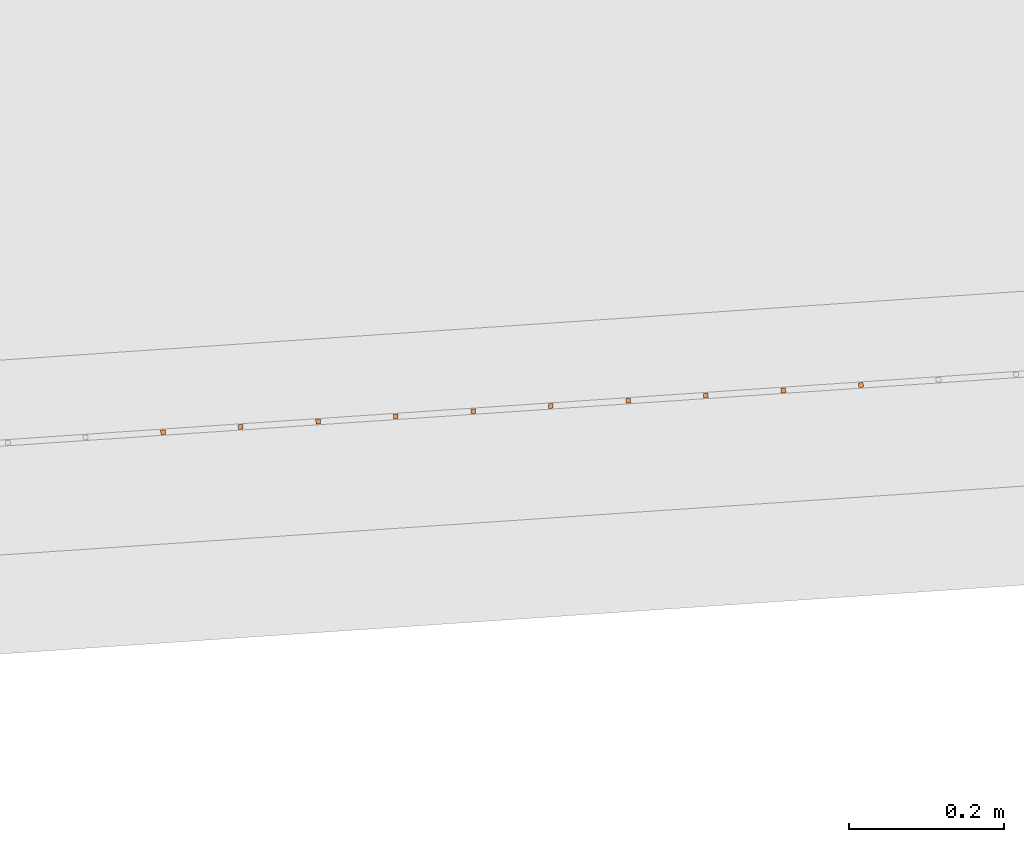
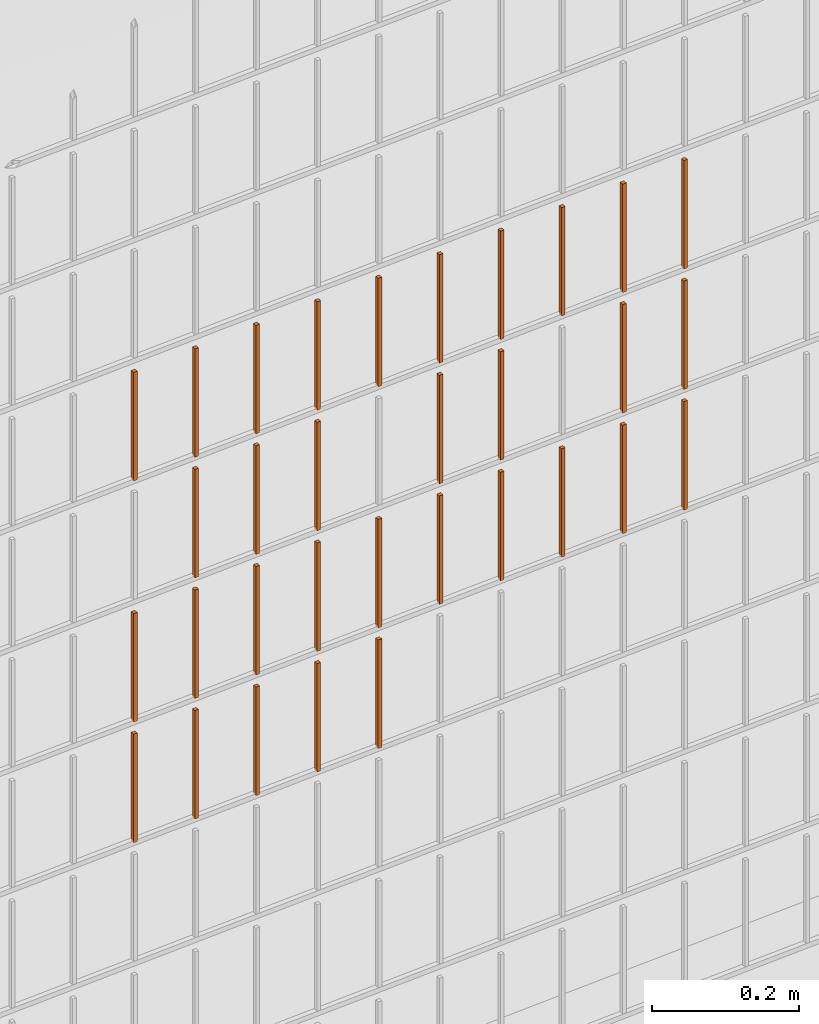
# One storey, part 317 of 1809: 32 proxies, 1 element without a shape of its own.
"""IFC2X3 building model written with IfcOpenShell, lengths in millimetres."""

from ifc_helpers import new_model, entity, si_unit, converted_unit, derived_unit, money_unit, direction, frame, origin_with_axes, place, context, subcontext, project, spatial, faceted_brep, source, transform, mapped, material, type_object, element, aggregate, save


model = new_model("IFC2X3")

# Units and contexts
model_context = context("Model", 3, precision=0.01, world=origin_with_axes(), true_north=direction((0.0, 1.0)))
body_context = subcontext(model_context, "Body", "Model", "MODEL_VIEW")
ifc_project = project(units=[si_unit("LENGTHUNIT", "METRE", prefix="MILLI"), si_unit("AREAUNIT", "SQUARE_METRE"), si_unit("VOLUMEUNIT", "CUBIC_METRE"), converted_unit("PLANEANGLEUNIT", "DEGREE", entity("IfcPlaneAngleMeasure", 0.0174532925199), si_unit("PLANEANGLEUNIT", "RADIAN"), dimensions=[0, 0, 0, 0, 0, 0, 0]), si_unit("SOLIDANGLEUNIT", "STERADIAN"), money_unit("EUR"), converted_unit("TIMEUNIT", "Year", entity("IfcTimeMeasure", 31556926.0), si_unit("TIMEUNIT", "SECOND"), dimensions=[0, 0, 1, 0, 0, 0, 0]), si_unit("MASSUNIT", "GRAM", prefix="KILO"), si_unit("THERMODYNAMICTEMPERATUREUNIT", "DEGREE_CELSIUS"), si_unit("LUMINOUSINTENSITYUNIT", "LUMEN"), si_unit("ENERGYUNIT", "JOULE", prefix="MEGA"), derived_unit("THERMALCONDUCTANCEUNIT", [(si_unit("POWERUNIT", "WATT"), 1), (si_unit("LENGTHUNIT", "METRE"), -1), (si_unit("THERMODYNAMICTEMPERATUREUNIT", "KELVIN"), -1)]), derived_unit("SPECIFICHEATCAPACITYUNIT", [(si_unit("ENERGYUNIT", "JOULE"), 1), (si_unit("MASSUNIT", "GRAM", prefix="KILO"), -1), (si_unit("THERMODYNAMICTEMPERATUREUNIT", "KELVIN"), -1)]), derived_unit("MASSDENSITYUNIT", [(si_unit("MASSUNIT", "GRAM", prefix="KILO"), 1), (si_unit("VOLUMEUNIT", "CUBIC_METRE"), -1)])], contexts=[model_context])

# Site, building, storey
site_placement = place(None, origin_with_axes())
site = spatial("IfcSite", under=ifc_project, at=site_placement, Name="Politse- ja Piirivalveameti ning Päästeameti ühishoone", CompositionType="ELEMENT")
building_placement = place(site_placement, origin_with_axes())
building = spatial("IfcBuilding", under=site, at=building_placement, Name="Politse- ja Piirivalveameti ning Päästeameti ühishoone", CompositionType="ELEMENT")
storey_placement = place(building_placement, origin_with_axes())
storey = spatial("IfcBuildingStorey", under=building, at=storey_placement, Name="Esimene korrus", CompositionType="ELEMENT", Elevation=0.0)

# Proxies
building_element_proxy_type_1 = type_object("IfcBuildingElementProxyType", Name="Railing Type", PredefinedType="NOTDEFINED")
proxy_1_placement = place(storey_placement, frame((89252.001212, -29183.4766571, 203.661247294), z_axis=(0.0, 0.0, 1.0), x_axis=(1.0, 0.0, 0.0)))
proxy_1 = element("IfcBuildingElementProxy", 1, at=proxy_1_placement, inside=storey, type_object=building_element_proxy_type_1, Name="PIIRDEAED")
ifc_material = material(Name="ET-03_Raud")
building_element_proxy_type_2 = type_object("IfcBuildingElementProxyType", Name="IfcBuildingElementProxy", PredefinedType="NOTDEFINED")
shared_shape_1 = source(origin_with_axes(), body_context, "Body", "Brep", [
    faceted_brep([(3.0, 3.0, -0.000752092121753), (-3.0, 3.0, -0.000752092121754), (-3.0, 3.0, 179.99926046), (3.0, 3.0, 179.99926046), (3.0, -3.0, 0.000752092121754), (-3.0, -3.0, 0.000752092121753), (-3.0, -3.0, 180.000764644), (3.0, -3.0, 180.000764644)], [[[0, 1, 2, 3]], [[0, 4, 5, 1]], [[1, 5, 6, 2]], [[3, 2, 6, 7]], [[4, 0, 3, 7]], [[5, 4, 7, 6]]]),
])
proxy_2_placement = place(proxy_1_placement, frame((-38439.0987092, -19894.1908155, 817.57584601), z_axis=(0.0, 0.0, 1.0), x_axis=(1.0, 0.0, 0.0)))
proxy_2 = element("IfcBuildingElementProxy", 2, at=proxy_2_placement, type_object=building_element_proxy_type_2, material=ifc_material, Name="BALUSTER - 001", context=body_context, shape_type="MappedRepresentation", body=[
    mapped(shared_shape_1, transform((0.0, 0.0, 0.0), x_axis=(-0.0673926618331, 0.997726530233, 0.0), y_axis=(-0.997726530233, -0.0673926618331, 0.0), z_axis=(0.0, 0.0, 1.0))),
])
shared_shape_2 = source(origin_with_axes(), body_context, "Body", "Brep", [
    faceted_brep([(3.0, 3.0, -0.000752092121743), (-3.0, 3.0, -0.000752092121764), (-3.0, 3.0, 179.99926046), (3.0, 3.0, 179.99926046), (3.0, -3.0, 0.000752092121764), (-3.0, -3.0, 0.000752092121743), (-3.0, -3.0, 180.000764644), (3.0, -3.0, 180.000764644)], [[[0, 1, 2, 3]], [[0, 4, 5, 1]], [[1, 5, 6, 2]], [[3, 2, 6, 7]], [[4, 0, 3, 7]], [[5, 4, 7, 6]]]),
])
proxy_3_placement = place(proxy_1_placement, frame((-38538.8713622, -19900.9300817, 817.550776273), z_axis=(0.0, 0.0, 1.0), x_axis=(1.0, 0.0, 0.0)))
proxy_3 = element("IfcBuildingElementProxy", 3, at=proxy_3_placement, type_object=building_element_proxy_type_2, material=ifc_material, Name="BALUSTER - 001", context=body_context, shape_type="MappedRepresentation", body=[
    mapped(shared_shape_2, transform((0.0, 0.0, 0.0), x_axis=(-0.0673926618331, 0.997726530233, 0.0), y_axis=(-0.997726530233, -0.0673926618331, 0.0), z_axis=(0.0, 0.0, 1.0))),
])
proxy_4_placement = place(proxy_1_placement, frame((-38538.8713622, -19900.9300817, 1217.55077627), z_axis=(0.0, 0.0, 1.0), x_axis=(1.0, 0.0, 0.0)))
proxy_4 = element("IfcBuildingElementProxy", 4, at=proxy_4_placement, type_object=building_element_proxy_type_2, material=ifc_material, Name="BALUSTER - 001", context=body_context, shape_type="MappedRepresentation", body=[
    mapped(shared_shape_2, transform((0.0, 0.0, 0.0), x_axis=(-0.0673926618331, 0.997726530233, 0.0), y_axis=(-0.997726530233, -0.0673926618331, 0.0), z_axis=(0.0, 0.0, 1.0))),
])
shared_shape_3 = source(origin_with_axes(), body_context, "Body", "Brep", [
    faceted_brep([(3.0, 3.0, -0.000752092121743), (-3.0, 3.0, -0.000752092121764), (-3.0, 3.0, 179.99926046), (3.0, 3.0, 179.99926046), (3.0, -3.0, 0.000752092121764), (-3.0, -3.0, 0.000752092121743), (-3.0, -3.0, 180.000764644), (3.0, -3.0, 180.000764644)], [[[0, 1, 2, 3]], [[0, 4, 5, 1]], [[1, 5, 6, 2]], [[3, 2, 6, 7]], [[4, 0, 3, 7]], [[5, 4, 7, 6]]]),
])
proxy_5_placement = place(proxy_1_placement, frame((-38339.3260561, -19887.4515493, 817.600915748), z_axis=(0.0, 0.0, 1.0), x_axis=(1.0, 0.0, 0.0)))
proxy_5 = element("IfcBuildingElementProxy", 5, at=proxy_5_placement, type_object=building_element_proxy_type_2, material=ifc_material, Name="BALUSTER - 001", context=body_context, shape_type="MappedRepresentation", body=[
    mapped(shared_shape_3, transform((0.0, 0.0, 0.0), x_axis=(-0.0673926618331, 0.997726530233, 0.0), y_axis=(-0.997726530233, -0.0673926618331, 0.0), z_axis=(0.0, 0.0, 1.0))),
])
proxy_6_placement = place(proxy_1_placement, frame((-38439.0987092, -19894.1908155, 1217.57584601), z_axis=(0.0, 0.0, 1.0), x_axis=(1.0, 0.0, 0.0)))
proxy_6 = element("IfcBuildingElementProxy", 6, at=proxy_6_placement, type_object=building_element_proxy_type_2, material=ifc_material, Name="BALUSTER - 001", context=body_context, shape_type="MappedRepresentation", body=[
    mapped(shared_shape_3, transform((0.0, 0.0, 0.0), x_axis=(-0.0673926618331, 0.997726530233, 0.0), y_axis=(-0.997726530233, -0.0673926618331, 0.0), z_axis=(0.0, 0.0, 1.0))),
])
shared_shape_4 = source(origin_with_axes(), body_context, "Body", "Brep", [
    faceted_brep([(3.0, 3.0, -0.000752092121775), (-3.0, 3.0, -0.000752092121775), (-3.0, 3.0, 179.99926046), (3.0, 3.0, 179.99926046), (3.0, -3.0, 0.000752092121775), (-3.0, -3.0, 0.000752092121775), (-3.0, -3.0, 180.000764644), (3.0, -3.0, 180.000764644)], [[[0, 1, 2, 3]], [[0, 4, 5, 1]], [[1, 5, 6, 2]], [[3, 2, 6, 7]], [[4, 0, 3, 7]], [[5, 4, 7, 6]]]),
])
proxy_7_placement = place(proxy_1_placement, frame((-38838.1893213, -19921.1478802, 617.475567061), z_axis=(0.0, 0.0, 1.0), x_axis=(1.0, 0.0, 0.0)))
proxy_7 = element("IfcBuildingElementProxy", 7, at=proxy_7_placement, type_object=building_element_proxy_type_2, material=ifc_material, Name="BALUSTER - 001", context=body_context, shape_type="MappedRepresentation", body=[
    mapped(shared_shape_4, transform((0.0, 0.0, 0.0), x_axis=(-0.0673926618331, 0.997726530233, 0.0), y_axis=(-0.997726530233, -0.0673926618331, 0.0), z_axis=(0.0, 0.0, 1.0))),
])
shared_shape_5 = source(origin_with_axes(), body_context, "Body", "Brep", [
    faceted_brep([(3.0, 3.0, -0.000752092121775), (-3.0, 3.0, -0.000752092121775), (-3.0, 3.0, 179.99926046), (3.0, 3.0, 179.99926046), (3.0, -3.0, 0.000752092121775), (-3.0, -3.0, 0.000752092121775), (-3.0, -3.0, 180.000764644), (3.0, -3.0, 180.000764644)], [[[0, 1, 2, 3]], [[0, 4, 5, 1]], [[1, 5, 6, 2]], [[3, 2, 6, 7]], [[4, 0, 3, 7]], [[5, 4, 7, 6]]]),
])
proxy_8_placement = place(proxy_1_placement, frame((-38838.1893213, -19921.1478802, 817.475567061), z_axis=(0.0, 0.0, 1.0), x_axis=(1.0, 0.0, 0.0)))
proxy_8 = element("IfcBuildingElementProxy", 8, at=proxy_8_placement, type_object=building_element_proxy_type_2, material=ifc_material, Name="BALUSTER - 001", context=body_context, shape_type="MappedRepresentation", body=[
    mapped(shared_shape_5, transform((0.0, 0.0, 0.0), x_axis=(-0.0673926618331, 0.997726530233, 0.0), y_axis=(-0.997726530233, -0.0673926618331, 0.0), z_axis=(0.0, 0.0, 1.0))),
])
proxy_9_placement = place(proxy_1_placement, frame((-38838.1893213, -19921.1478802, 1217.47556706), z_axis=(0.0, 0.0, 1.0), x_axis=(1.0, 0.0, 0.0)))
proxy_9 = element("IfcBuildingElementProxy", 9, at=proxy_9_placement, type_object=building_element_proxy_type_2, material=ifc_material, Name="BALUSTER - 001", context=body_context, shape_type="MappedRepresentation", body=[
    mapped(shared_shape_5, transform((0.0, 0.0, 0.0), x_axis=(-0.0673926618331, 0.997726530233, 0.0), y_axis=(-0.997726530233, -0.0673926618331, 0.0), z_axis=(0.0, 0.0, 1.0))),
])
shared_shape_6 = source(origin_with_axes(), body_context, "Body", "Brep", [
    faceted_brep([(3.0, 3.0, -0.000752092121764), (-3.0, 3.0, -0.000752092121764), (-3.0, 3.0, 179.99926046), (3.0, 3.0, 179.99926046), (3.0, -3.0, 0.000752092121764), (-3.0, -3.0, 0.000752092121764), (-3.0, -3.0, 180.000764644), (3.0, -3.0, 180.000764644)], [[[0, 1, 2, 3]], [[0, 4, 5, 1]], [[1, 5, 6, 2]], [[3, 2, 6, 7]], [[4, 0, 3, 7]], [[5, 4, 7, 6]]]),
])
proxy_10_placement = place(proxy_1_placement, frame((-38937.9619743, -19927.8871464, 1217.45049732), z_axis=(0.0, 0.0, 1.0), x_axis=(1.0, 0.0, 0.0)))
proxy_10 = element("IfcBuildingElementProxy", 10, at=proxy_10_placement, type_object=building_element_proxy_type_2, material=ifc_material, Name="BALUSTER - 001", context=body_context, shape_type="MappedRepresentation", body=[
    mapped(shared_shape_6, transform((0.0, 0.0, 0.0), x_axis=(-0.0673926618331, 0.997726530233, 0.0), y_axis=(-0.997726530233, -0.0673926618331, 0.0), z_axis=(0.0, 0.0, 1.0))),
])
shared_shape_7 = source(origin_with_axes(), body_context, "Body", "Brep", [
    faceted_brep([(3.0, 3.0, -0.000752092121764), (-3.0, 3.0, -0.000752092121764), (-3.0, 3.0, 179.99926046), (3.0, 3.0, 179.99926046), (3.0, -3.0, 0.000752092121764), (-3.0, -3.0, 0.000752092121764), (-3.0, -3.0, 180.000764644), (3.0, -3.0, 180.000764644)], [[[0, 1, 2, 3]], [[0, 4, 5, 1]], [[1, 5, 6, 2]], [[3, 2, 6, 7]], [[4, 0, 3, 7]], [[5, 4, 7, 6]]]),
])
proxy_11_placement = place(proxy_1_placement, frame((-38339.3260561, -19887.4515493, 1217.60091575), z_axis=(0.0, 0.0, 1.0), x_axis=(1.0, 0.0, 0.0)))
proxy_11 = element("IfcBuildingElementProxy", 11, at=proxy_11_placement, type_object=building_element_proxy_type_2, material=ifc_material, Name="BALUSTER - 001", context=body_context, shape_type="MappedRepresentation", body=[
    mapped(shared_shape_7, transform((0.0, 0.0, 0.0), x_axis=(-0.0673926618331, 0.997726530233, 0.0), y_axis=(-0.997726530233, -0.0673926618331, 0.0), z_axis=(0.0, 0.0, 1.0))),
])
shared_shape_8 = source(origin_with_axes(), body_context, "Body", "Brep", [
    faceted_brep([(3.0, 3.0, -0.000752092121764), (-3.0, 3.0, -0.000752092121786), (-3.0, 3.0, 179.99926046), (3.0, 3.0, 179.99926046), (3.0, -3.0, 0.000752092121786), (-3.0, -3.0, 0.000752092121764), (-3.0, -3.0, 180.000764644), (3.0, -3.0, 180.000764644)], [[[0, 1, 2, 3]], [[0, 4, 5, 1]], [[1, 5, 6, 2]], [[3, 2, 6, 7]], [[4, 0, 3, 7]], [[5, 4, 7, 6]]]),
])
proxy_12_placement = place(proxy_1_placement, frame((-39037.7346273, -19934.6264126, 617.425427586), z_axis=(0.0, 0.0, 1.0), x_axis=(1.0, 0.0, 0.0)))
proxy_12 = element("IfcBuildingElementProxy", 12, at=proxy_12_placement, type_object=building_element_proxy_type_2, material=ifc_material, Name="BALUSTER - 001", context=body_context, shape_type="MappedRepresentation", body=[
    mapped(shared_shape_8, transform((0.0, 0.0, 0.0), x_axis=(-0.0673926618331, 0.997726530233, 0.0), y_axis=(-0.997726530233, -0.0673926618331, 0.0), z_axis=(0.0, 0.0, 1.0))),
])
shared_shape_9 = source(origin_with_axes(), body_context, "Body", "Brep", [
    faceted_brep([(3.0, 3.0, -0.000752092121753), (-3.0, 3.0, -0.000752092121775), (-3.0, 3.0, 179.99926046), (3.0, 3.0, 179.99926046), (3.0, -3.0, 0.000752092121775), (-3.0, -3.0, 0.000752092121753), (-3.0, -3.0, 180.000764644), (3.0, -3.0, 180.000764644)], [[[0, 1, 2, 3]], [[0, 4, 5, 1]], [[1, 5, 6, 2]], [[3, 2, 6, 7]], [[4, 0, 3, 7]], [[5, 4, 7, 6]]]),
])
proxy_13_placement = place(proxy_1_placement, frame((-39137.5072803, -19941.3656788, 817.400357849), z_axis=(0.0, 0.0, 1.0), x_axis=(1.0, 0.0, 0.0)))
proxy_13 = element("IfcBuildingElementProxy", 13, at=proxy_13_placement, type_object=building_element_proxy_type_2, material=ifc_material, Name="BALUSTER - 001", context=body_context, shape_type="MappedRepresentation", body=[
    mapped(shared_shape_9, transform((0.0, 0.0, 0.0), x_axis=(-0.0673926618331, 0.997726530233, 0.0), y_axis=(-0.997726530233, -0.0673926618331, 0.0), z_axis=(0.0, 0.0, 1.0))),
])
shared_shape_10 = source(origin_with_axes(), body_context, "Body", "Brep", [
    faceted_brep([(3.0, 3.0, -0.000752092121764), (-3.0, 3.0, -0.000752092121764), (-3.0, 3.0, 179.99926046), (3.0, 3.0, 179.99926046), (3.0, -3.0, 0.000752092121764), (-3.0, -3.0, 0.000752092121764), (-3.0, -3.0, 180.000764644), (3.0, -3.0, 180.000764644)], [[[0, 1, 2, 3]], [[0, 4, 5, 1]], [[1, 5, 6, 2]], [[3, 2, 6, 7]], [[4, 0, 3, 7]], [[5, 4, 7, 6]]]),
])
proxy_14_placement = place(proxy_1_placement, frame((-38239.5534031, -19880.7122831, 817.625985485), z_axis=(0.0, 0.0, 1.0), x_axis=(1.0, 0.0, 0.0)))
proxy_14 = element("IfcBuildingElementProxy", 14, at=proxy_14_placement, type_object=building_element_proxy_type_2, material=ifc_material, Name="BALUSTER - 001", context=body_context, shape_type="MappedRepresentation", body=[
    mapped(shared_shape_10, transform((0.0, 0.0, 0.0), x_axis=(-0.0673926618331, 0.997726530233, 0.0), y_axis=(-0.997726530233, -0.0673926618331, 0.0), z_axis=(0.0, 0.0, 1.0))),
])
shared_shape_11 = source(origin_with_axes(), body_context, "Body", "Brep", [
    faceted_brep([(3.0, 3.0, -0.000752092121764), (-3.0, 3.0, -0.000752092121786), (-3.0, 3.0, 179.99926046), (3.0, 3.0, 179.99926046), (3.0, -3.0, 0.000752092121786), (-3.0, -3.0, 0.000752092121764), (-3.0, -3.0, 180.000764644), (3.0, -3.0, 180.000764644)], [[[0, 1, 2, 3]], [[0, 4, 5, 1]], [[1, 5, 6, 2]], [[3, 2, 6, 7]], [[4, 0, 3, 7]], [[5, 4, 7, 6]]]),
])
proxy_15_placement = place(proxy_1_placement, frame((-38937.9619743, -19927.8871464, 817.450497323), z_axis=(0.0, 0.0, 1.0), x_axis=(1.0, 0.0, 0.0)))
proxy_15 = element("IfcBuildingElementProxy", 15, at=proxy_15_placement, type_object=building_element_proxy_type_2, material=ifc_material, Name="BALUSTER - 001", context=body_context, shape_type="MappedRepresentation", body=[
    mapped(shared_shape_11, transform((0.0, 0.0, 0.0), x_axis=(-0.0673926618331, 0.997726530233, 0.0), y_axis=(-0.997726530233, -0.0673926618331, 0.0), z_axis=(0.0, 0.0, 1.0))),
])
shared_shape_12 = source(origin_with_axes(), body_context, "Body", "Brep", [
    faceted_brep([(3.0, 3.0, -0.000752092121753), (-3.0, 3.0, -0.000752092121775), (-3.0, 3.0, 179.99926046), (3.0, 3.0, 179.99926046), (3.0, -3.0, 0.000752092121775), (-3.0, -3.0, 0.000752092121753), (-3.0, -3.0, 180.000764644), (3.0, -3.0, 180.000764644)], [[[0, 1, 2, 3]], [[0, 4, 5, 1]], [[1, 5, 6, 2]], [[3, 2, 6, 7]], [[4, 0, 3, 7]], [[5, 4, 7, 6]]]),
])
proxy_16_placement = place(proxy_1_placement, frame((-39137.5072803, -19941.3656788, 617.400357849), z_axis=(0.0, 0.0, 1.0), x_axis=(1.0, 0.0, 0.0)))
proxy_16 = element("IfcBuildingElementProxy", 16, at=proxy_16_placement, type_object=building_element_proxy_type_2, material=ifc_material, Name="BALUSTER - 001", context=body_context, shape_type="MappedRepresentation", body=[
    mapped(shared_shape_12, transform((0.0, 0.0, 0.0), x_axis=(-0.0673926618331, 0.997726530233, 0.0), y_axis=(-0.997726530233, -0.0673926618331, 0.0), z_axis=(0.0, 0.0, 1.0))),
])
shared_shape_13 = source(origin_with_axes(), body_context, "Body", "Brep", [
    faceted_brep([(3.0, 3.0, -0.000752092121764), (-3.0, 3.0, -0.000752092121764), (-3.0, 3.0, 179.99926046), (3.0, 3.0, 179.99926046), (3.0, -3.0, 0.000752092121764), (-3.0, -3.0, 0.000752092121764), (-3.0, -3.0, 180.000764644), (3.0, -3.0, 180.000764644)], [[[0, 1, 2, 3]], [[0, 4, 5, 1]], [[1, 5, 6, 2]], [[3, 2, 6, 7]], [[4, 0, 3, 7]], [[5, 4, 7, 6]]]),
])
proxy_17_placement = place(proxy_1_placement, frame((-38638.6440152, -19907.6693479, 817.525706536), z_axis=(0.0, 0.0, 1.0), x_axis=(1.0, 0.0, 0.0)))
proxy_17 = element("IfcBuildingElementProxy", 17, at=proxy_17_placement, type_object=building_element_proxy_type_2, material=ifc_material, Name="BALUSTER - 001", context=body_context, shape_type="MappedRepresentation", body=[
    mapped(shared_shape_13, transform((0.0, 0.0, 0.0), x_axis=(-0.0673926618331, 0.997726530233, 0.0), y_axis=(-0.997726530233, -0.0673926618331, 0.0), z_axis=(0.0, 0.0, 1.0))),
])
proxy_18_placement = place(proxy_1_placement, frame((-38638.6440152, -19907.6693479, 1217.52570654), z_axis=(0.0, 0.0, 1.0), x_axis=(1.0, 0.0, 0.0)))
proxy_18 = element("IfcBuildingElementProxy", 18, at=proxy_18_placement, type_object=building_element_proxy_type_2, material=ifc_material, Name="BALUSTER - 001", context=body_context, shape_type="MappedRepresentation", body=[
    mapped(shared_shape_13, transform((0.0, 0.0, 0.0), x_axis=(-0.0673926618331, 0.997726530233, 0.0), y_axis=(-0.997726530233, -0.0673926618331, 0.0), z_axis=(0.0, 0.0, 1.0))),
])
shared_shape_14 = source(origin_with_axes(), body_context, "Body", "Brep", [
    faceted_brep([(3.0, 3.0, -0.000752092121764), (-3.0, 3.0, -0.000752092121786), (-3.0, 3.0, 179.99926046), (3.0, 3.0, 179.99926046), (3.0, -3.0, 0.000752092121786), (-3.0, -3.0, 0.000752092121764), (-3.0, -3.0, 180.000764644), (3.0, -3.0, 180.000764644)], [[[0, 1, 2, 3]], [[0, 4, 5, 1]], [[1, 5, 6, 2]], [[3, 2, 6, 7]], [[4, 0, 3, 7]], [[5, 4, 7, 6]]]),
])
proxy_19_placement = place(proxy_1_placement, frame((-38937.9619743, -19927.8871464, 617.450497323), z_axis=(0.0, 0.0, 1.0), x_axis=(1.0, 0.0, 0.0)))
proxy_19 = element("IfcBuildingElementProxy", 19, at=proxy_19_placement, type_object=building_element_proxy_type_2, material=ifc_material, Name="BALUSTER - 001", context=body_context, shape_type="MappedRepresentation", body=[
    mapped(shared_shape_14, transform((0.0, 0.0, 0.0), x_axis=(-0.0673926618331, 0.997726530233, 0.0), y_axis=(-0.997726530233, -0.0673926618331, 0.0), z_axis=(0.0, 0.0, 1.0))),
])
shared_shape_15 = source(origin_with_axes(), body_context, "Body", "Brep", [
    faceted_brep([(3.0, 3.0, -0.000752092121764), (-3.0, 3.0, -0.000752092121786), (-3.0, 3.0, 179.99926046), (3.0, 3.0, 179.99926046), (3.0, -3.0, 0.000752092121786), (-3.0, -3.0, 0.000752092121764), (-3.0, -3.0, 180.000764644), (3.0, -3.0, 180.000764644)], [[[0, 1, 2, 3]], [[0, 4, 5, 1]], [[1, 5, 6, 2]], [[3, 2, 6, 7]], [[4, 0, 3, 7]], [[5, 4, 7, 6]]]),
])
proxy_20_placement = place(proxy_1_placement, frame((-39037.7346273, -19934.6264126, 817.425427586), z_axis=(0.0, 0.0, 1.0), x_axis=(1.0, 0.0, 0.0)))
proxy_20 = element("IfcBuildingElementProxy", 20, at=proxy_20_placement, type_object=building_element_proxy_type_2, material=ifc_material, Name="BALUSTER - 001", context=body_context, shape_type="MappedRepresentation", body=[
    mapped(shared_shape_15, transform((0.0, 0.0, 0.0), x_axis=(-0.0673926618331, 0.997726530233, 0.0), y_axis=(-0.997726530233, -0.0673926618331, 0.0), z_axis=(0.0, 0.0, 1.0))),
])
shared_shape_16 = source(origin_with_axes(), body_context, "Body", "Brep", [
    faceted_brep([(3.0, 3.0, -0.000752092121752), (-3.0, 3.0, -0.000752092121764), (-3.00000000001, 2.99999999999, 179.99926046), (2.99999999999, 2.99999999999, 179.99926046), (3.0, -3.0, 0.000752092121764), (-3.0, -3.0, 0.000752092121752), (-3.00000000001, -3.00000000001, 180.000764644), (2.99999999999, -3.00000000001, 180.000764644)], [[[0, 1, 2, 3]], [[0, 4, 5, 1]], [[1, 5, 6, 2]], [[3, 2, 6, 7]], [[4, 0, 3, 7]], [[5, 4, 7, 6]]]),
])
proxy_21_placement = place(proxy_1_placement, frame((-38838.1893213, -19921.1478802, 1017.47556706), z_axis=(0.0, 0.0, 1.0), x_axis=(1.0, 0.0, 0.0)))
proxy_21 = element("IfcBuildingElementProxy", 21, at=proxy_21_placement, type_object=building_element_proxy_type_2, material=ifc_material, Name="BALUSTER - 001", context=body_context, shape_type="MappedRepresentation", body=[
    mapped(shared_shape_16, transform((0.0, 0.0, 0.0), x_axis=(-0.0673926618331, 0.997726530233, 0.0), y_axis=(-0.997726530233, -0.0673926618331, 0.0), z_axis=(0.0, 0.0, 1.0))),
])
shared_shape_17 = source(origin_with_axes(), body_context, "Body", "Brep", [
    faceted_brep([(3.0, 3.0, -0.000752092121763), (-3.0, 3.0, -0.000752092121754), (-3.00000000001, 2.99999999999, 179.99926046), (2.99999999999, 2.99999999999, 179.99926046), (3.0, -3.0, 0.000752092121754), (-3.0, -3.0, 0.000752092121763), (-3.00000000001, -3.00000000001, 180.000764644), (2.99999999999, -3.00000000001, 180.000764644)], [[[0, 1, 2, 3]], [[0, 4, 5, 1]], [[1, 5, 6, 2]], [[3, 2, 6, 7]], [[4, 0, 3, 7]], [[5, 4, 7, 6]]]),
])
proxy_22_placement = place(proxy_1_placement, frame((-39037.7346273, -19934.6264126, 1017.42542759), z_axis=(0.0, 0.0, 1.0), x_axis=(1.0, 0.0, 0.0)))
proxy_22 = element("IfcBuildingElementProxy", 22, at=proxy_22_placement, type_object=building_element_proxy_type_2, material=ifc_material, Name="BALUSTER - 001", context=body_context, shape_type="MappedRepresentation", body=[
    mapped(shared_shape_17, transform((0.0, 0.0, 0.0), x_axis=(-0.0673926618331, 0.997726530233, 0.0), y_axis=(-0.997726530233, -0.0673926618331, 0.0), z_axis=(0.0, 0.0, 1.0))),
])
shared_shape_18 = source(origin_with_axes(), body_context, "Body", "Brep", [
    faceted_brep([(3.0, 3.0, -0.000752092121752), (-3.0, 3.0, -0.000752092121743), (-3.00000000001, 2.99999999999, 179.99926046), (2.99999999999, 2.99999999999, 179.99926046), (3.0, -3.0, 0.000752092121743), (-3.0, -3.0, 0.000752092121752), (-3.00000000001, -3.00000000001, 180.000764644), (2.99999999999, -3.00000000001, 180.000764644)], [[[0, 1, 2, 3]], [[0, 4, 5, 1]], [[1, 5, 6, 2]], [[3, 2, 6, 7]], [[4, 0, 3, 7]], [[5, 4, 7, 6]]]),
])
proxy_23_placement = place(proxy_1_placement, frame((-38538.8713622, -19900.9300817, 1017.55077627), z_axis=(0.0, 0.0, 1.0), x_axis=(1.0, 0.0, 0.0)))
proxy_23 = element("IfcBuildingElementProxy", 23, at=proxy_23_placement, type_object=building_element_proxy_type_2, material=ifc_material, Name="BALUSTER - 001", context=body_context, shape_type="MappedRepresentation", body=[
    mapped(shared_shape_18, transform((0.0, 0.0, 0.0), x_axis=(-0.0673926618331, 0.997726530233, 0.0), y_axis=(-0.997726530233, -0.0673926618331, 0.0), z_axis=(0.0, 0.0, 1.0))),
])
shared_shape_19 = source(origin_with_axes(), body_context, "Body", "Brep", [
    faceted_brep([(3.0, 3.0, -0.000752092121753), (-3.0, 3.0, -0.000752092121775), (-3.0, 3.0, 179.99926046), (3.0, 3.0, 179.99926046), (3.0, -3.0, 0.000752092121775), (-3.0, -3.0, 0.000752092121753), (-3.0, -3.0, 180.000764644), (3.0, -3.0, 180.000764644)], [[[0, 1, 2, 3]], [[0, 4, 5, 1]], [[1, 5, 6, 2]], [[3, 2, 6, 7]], [[4, 0, 3, 7]], [[5, 4, 7, 6]]]),
])
proxy_24_placement = place(proxy_1_placement, frame((-39137.5072803, -19941.3656788, 1217.40035785), z_axis=(0.0, 0.0, 1.0), x_axis=(1.0, 0.0, 0.0)))
proxy_24 = element("IfcBuildingElementProxy", 24, at=proxy_24_placement, type_object=building_element_proxy_type_2, material=ifc_material, Name="BALUSTER - 001", context=body_context, shape_type="MappedRepresentation", body=[
    mapped(shared_shape_19, transform((0.0, 0.0, 0.0), x_axis=(-0.0673926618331, 0.997726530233, 0.0), y_axis=(-0.997726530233, -0.0673926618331, 0.0), z_axis=(0.0, 0.0, 1.0))),
])
shared_shape_20 = source(origin_with_axes(), body_context, "Body", "Brep", [
    faceted_brep([(3.0, 3.0, -0.000752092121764), (-3.0, 3.0, -0.000752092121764), (-3.0, 3.0, 179.99926046), (3.0, 3.0, 179.99926046), (3.0, -3.0, 0.000752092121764), (-3.0, -3.0, 0.000752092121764), (-3.0, -3.0, 180.000764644), (3.0, -3.0, 180.000764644)], [[[0, 1, 2, 3]], [[0, 4, 5, 1]], [[1, 5, 6, 2]], [[3, 2, 6, 7]], [[4, 0, 3, 7]], [[5, 4, 7, 6]]]),
])
proxy_25_placement = place(proxy_1_placement, frame((-38738.4166682, -19914.408614, 1217.5006368), z_axis=(0.0, 0.0, 1.0), x_axis=(1.0, 0.0, 0.0)))
proxy_25 = element("IfcBuildingElementProxy", 25, at=proxy_25_placement, type_object=building_element_proxy_type_2, material=ifc_material, Name="BALUSTER - 001", context=body_context, shape_type="MappedRepresentation", body=[
    mapped(shared_shape_20, transform((0.0, 0.0, 0.0), x_axis=(-0.0673926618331, 0.997726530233, 0.0), y_axis=(-0.997726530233, -0.0673926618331, 0.0), z_axis=(0.0, 0.0, 1.0))),
])
shared_shape_21 = source(origin_with_axes(), body_context, "Body", "Brep", [
    faceted_brep([(3.0, 3.0, -0.000752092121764), (-3.0, 3.0, -0.000752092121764), (-3.0, 3.0, 179.99926046), (3.0, 3.0, 179.99926046), (3.0, -3.0, 0.000752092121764), (-3.0, -3.0, 0.000752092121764), (-3.0, -3.0, 180.000764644), (3.0, -3.0, 180.000764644)], [[[0, 1, 2, 3]], [[0, 4, 5, 1]], [[1, 5, 6, 2]], [[3, 2, 6, 7]], [[4, 0, 3, 7]], [[5, 4, 7, 6]]]),
])
proxy_26_placement = place(proxy_1_placement, frame((-38239.5534031, -19880.7122831, 1217.62598549), z_axis=(0.0, 0.0, 1.0), x_axis=(1.0, 0.0, 0.0)))
proxy_26 = element("IfcBuildingElementProxy", 26, at=proxy_26_placement, type_object=building_element_proxy_type_2, material=ifc_material, Name="BALUSTER - 001", context=body_context, shape_type="MappedRepresentation", body=[
    mapped(shared_shape_21, transform((0.0, 0.0, 0.0), x_axis=(-0.0673926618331, 0.997726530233, 0.0), y_axis=(-0.997726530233, -0.0673926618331, 0.0), z_axis=(0.0, 0.0, 1.0))),
])
shared_shape_22 = source(origin_with_axes(), body_context, "Body", "Brep", [
    faceted_brep([(3.0, 3.0, -0.000752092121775), (-3.0, 3.0, -0.000752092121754), (-3.0, 3.0, 179.99926046), (3.0, 3.0, 179.99926046), (3.0, -3.0, 0.000752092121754), (-3.0, -3.0, 0.000752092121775), (-3.0, -3.0, 180.000764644), (3.0, -3.0, 180.000764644)], [[[0, 1, 2, 3]], [[0, 4, 5, 1]], [[1, 5, 6, 2]], [[3, 2, 6, 7]], [[4, 0, 3, 7]], [[5, 4, 7, 6]]]),
])
proxy_27_placement = place(proxy_1_placement, frame((-38738.4166682, -19914.408614, 817.500636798), z_axis=(0.0, 0.0, 1.0), x_axis=(1.0, 0.0, 0.0)))
proxy_27 = element("IfcBuildingElementProxy", 27, at=proxy_27_placement, type_object=building_element_proxy_type_2, material=ifc_material, Name="BALUSTER - 001", context=body_context, shape_type="MappedRepresentation", body=[
    mapped(shared_shape_22, transform((0.0, 0.0, 0.0), x_axis=(-0.0673926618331, 0.997726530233, 0.0), y_axis=(-0.997726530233, -0.0673926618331, 0.0), z_axis=(0.0, 0.0, 1.0))),
])
shared_shape_23 = source(origin_with_axes(), body_context, "Body", "Brep", [
    faceted_brep([(3.0, 3.0, -0.000752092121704), (-3.0, 3.0, -0.000752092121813), (-3.00000000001, 2.99999999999, 179.99926046), (2.99999999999, 2.99999999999, 179.99926046), (3.0, -3.0, 0.000752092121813), (-3.0, -3.0, 0.000752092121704), (-3.00000000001, -3.00000000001, 180.000764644), (2.99999999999, -3.00000000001, 180.000764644)], [[[0, 1, 2, 3]], [[0, 4, 5, 1]], [[1, 5, 6, 2]], [[3, 2, 6, 7]], [[4, 0, 3, 7]], [[5, 4, 7, 6]]]),
])
proxy_28_placement = place(proxy_1_placement, frame((-38239.5534031, -19880.7122831, 1017.62598549), z_axis=(0.0, 0.0, 1.0), x_axis=(1.0, 0.0, 0.0)))
proxy_28 = element("IfcBuildingElementProxy", 28, at=proxy_28_placement, type_object=building_element_proxy_type_2, material=ifc_material, Name="BALUSTER - 001", context=body_context, shape_type="MappedRepresentation", body=[
    mapped(shared_shape_23, transform((0.0, 0.0, 0.0), x_axis=(-0.0673926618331, 0.997726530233, 0.0), y_axis=(-0.997726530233, -0.0673926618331, 0.0), z_axis=(0.0, 0.0, 1.0))),
])
proxy_29_placement = place(proxy_1_placement, frame((-38937.9619743, -19927.8871464, 1017.45049732), z_axis=(0.0, 0.0, 1.0), x_axis=(1.0, 0.0, 0.0)))
proxy_29 = element("IfcBuildingElementProxy", 29, at=proxy_29_placement, type_object=building_element_proxy_type_2, material=ifc_material, Name="BALUSTER - 001", context=body_context, shape_type="MappedRepresentation", body=[
    mapped(shared_shape_23, transform((0.0, 0.0, 0.0), x_axis=(-0.0673926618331, 0.997726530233, 0.0), y_axis=(-0.997726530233, -0.0673926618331, 0.0), z_axis=(0.0, 0.0, 1.0))),
])
shared_shape_24 = source(origin_with_axes(), body_context, "Body", "Brep", [
    faceted_brep([(3.0, 3.0, -0.000752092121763), (-3.0, 3.0, -0.000752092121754), (-3.00000000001, 2.99999999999, 179.99926046), (2.99999999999, 2.99999999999, 179.99926046), (3.0, -3.0, 0.000752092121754), (-3.0, -3.0, 0.000752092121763), (-3.00000000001, -3.00000000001, 180.000764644), (2.99999999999, -3.00000000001, 180.000764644)], [[[0, 1, 2, 3]], [[0, 4, 5, 1]], [[1, 5, 6, 2]], [[3, 2, 6, 7]], [[4, 0, 3, 7]], [[5, 4, 7, 6]]]),
])
proxy_30_placement = place(proxy_1_placement, frame((-38638.6440152, -19907.6693479, 1017.52570654), z_axis=(0.0, 0.0, 1.0), x_axis=(1.0, 0.0, 0.0)))
proxy_30 = element("IfcBuildingElementProxy", 30, at=proxy_30_placement, type_object=building_element_proxy_type_2, material=ifc_material, Name="BALUSTER - 001", context=body_context, shape_type="MappedRepresentation", body=[
    mapped(shared_shape_24, transform((0.0, 0.0, 0.0), x_axis=(-0.0673926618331, 0.997726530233, 0.0), y_axis=(-0.997726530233, -0.0673926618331, 0.0), z_axis=(0.0, 0.0, 1.0))),
])
shared_shape_25 = source(origin_with_axes(), body_context, "Body", "Brep", [
    faceted_brep([(3.0, 3.0, -0.000752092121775), (-3.0, 3.0, -0.000752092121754), (-3.0, 3.0, 179.99926046), (3.0, 3.0, 179.99926046), (3.0, -3.0, 0.000752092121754), (-3.0, -3.0, 0.000752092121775), (-3.0, -3.0, 180.000764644), (3.0, -3.0, 180.000764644)], [[[0, 1, 2, 3]], [[0, 4, 5, 1]], [[1, 5, 6, 2]], [[3, 2, 6, 7]], [[4, 0, 3, 7]], [[5, 4, 7, 6]]]),
])
proxy_31_placement = place(proxy_1_placement, frame((-38738.4166682, -19914.408614, 617.500636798), z_axis=(0.0, 0.0, 1.0), x_axis=(1.0, 0.0, 0.0)))
proxy_31 = element("IfcBuildingElementProxy", 31, at=proxy_31_placement, type_object=building_element_proxy_type_2, material=ifc_material, Name="BALUSTER - 001", context=body_context, shape_type="MappedRepresentation", body=[
    mapped(shared_shape_25, transform((0.0, 0.0, 0.0), x_axis=(-0.0673926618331, 0.997726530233, 0.0), y_axis=(-0.997726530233, -0.0673926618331, 0.0), z_axis=(0.0, 0.0, 1.0))),
])
shared_shape_26 = source(origin_with_axes(), body_context, "Body", "Brep", [
    faceted_brep([(3.0, 3.0, -0.000752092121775), (-3.0, 3.0, -0.000752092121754), (-3.0, 3.0, 179.99926046), (3.0, 3.0, 179.99926046), (3.0, -3.0, 0.000752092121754), (-3.0, -3.0, 0.000752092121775), (-3.0, -3.0, 180.000764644), (3.0, -3.0, 180.000764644)], [[[0, 1, 2, 3]], [[0, 4, 5, 1]], [[1, 5, 6, 2]], [[3, 2, 6, 7]], [[4, 0, 3, 7]], [[5, 4, 7, 6]]]),
])
proxy_32_placement = place(proxy_1_placement, frame((-39037.7346273, -19934.6264126, 1217.42542759), z_axis=(0.0, 0.0, 1.0), x_axis=(1.0, 0.0, 0.0)))
proxy_32 = element("IfcBuildingElementProxy", 32, at=proxy_32_placement, type_object=building_element_proxy_type_2, material=ifc_material, Name="BALUSTER - 001", context=body_context, shape_type="MappedRepresentation", body=[
    mapped(shared_shape_26, transform((0.0, 0.0, 0.0), x_axis=(-0.0673926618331, 0.997726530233, 0.0), y_axis=(-0.997726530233, -0.0673926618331, 0.0), z_axis=(0.0, 0.0, 1.0))),
])
shared_shape_27 = source(origin_with_axes(), body_context, "Body", "Brep", [
    faceted_brep([(3.0, 3.0, -0.000752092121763), (-3.0, 3.0, -0.000752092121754), (-3.00000000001, 2.99999999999, 179.99926046), (2.99999999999, 2.99999999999, 179.99926046), (3.0, -3.0, 0.000752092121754), (-3.0, -3.0, 0.000752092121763), (-3.00000000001, -3.00000000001, 180.000764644), (2.99999999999, -3.00000000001, 180.000764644)], [[[0, 1, 2, 3]], [[0, 4, 5, 1]], [[1, 5, 6, 2]], [[3, 2, 6, 7]], [[4, 0, 3, 7]], [[5, 4, 7, 6]]]),
])
proxy_33_placement = place(proxy_1_placement, frame((-38339.3260561, -19887.4515493, 1017.60091575), z_axis=(0.0, 0.0, 1.0), x_axis=(1.0, 0.0, 0.0)))
proxy_33 = element("IfcBuildingElementProxy", 33, at=proxy_33_placement, type_object=building_element_proxy_type_2, material=ifc_material, Name="BALUSTER - 001", context=body_context, shape_type="MappedRepresentation", body=[
    mapped(shared_shape_27, transform((0.0, 0.0, 0.0), x_axis=(-0.0673926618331, 0.997726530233, 0.0), y_axis=(-0.997726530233, -0.0673926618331, 0.0), z_axis=(0.0, 0.0, 1.0))),
])
aggregate(proxy_1, [proxy_31, proxy_7, proxy_19, proxy_12, proxy_16, proxy_14, proxy_5, proxy_2, proxy_3, proxy_17, proxy_27, proxy_8, proxy_15, proxy_20, proxy_13, proxy_28, proxy_33, proxy_23, proxy_30, proxy_21, proxy_29, proxy_22, proxy_26, proxy_11, proxy_6, proxy_4, proxy_18, proxy_25, proxy_9, proxy_10, proxy_32, proxy_24])

save(model, "model.ifc")
